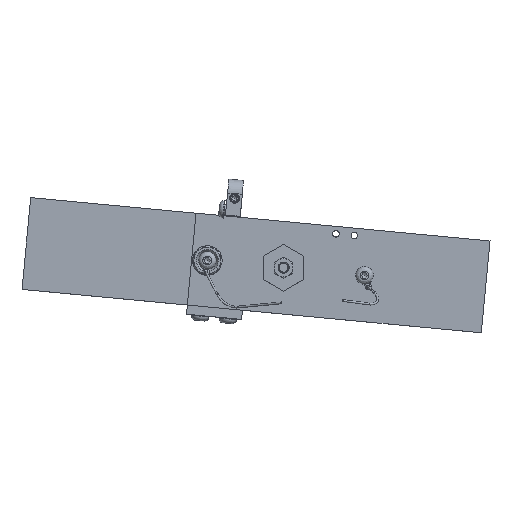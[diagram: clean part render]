
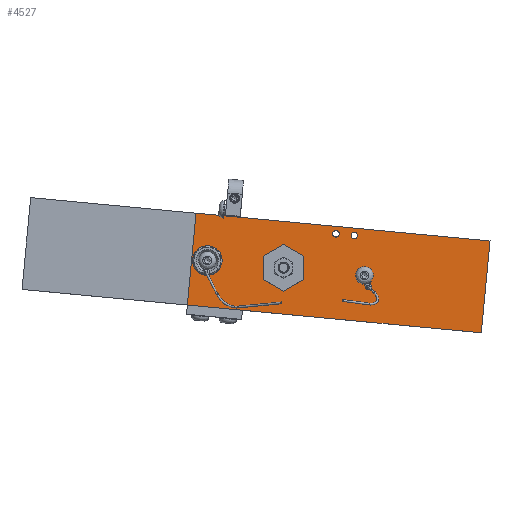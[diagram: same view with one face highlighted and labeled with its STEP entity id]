
A CAD part, top view. The second image highlights one B-rep face of the part: STEP entity #4527.
In plain terms, the highlighted planar face has unit normal (0, 0, 1) as drawn and (0, 0, -1) by its records, which use the part's own axes.
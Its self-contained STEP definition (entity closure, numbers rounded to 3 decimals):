
#313=LINE('',#7025,#554);
#314=LINE('',#7027,#555);
#315=LINE('',#7029,#556);
#316=LINE('',#7030,#557);
#554=VECTOR('',#5561,50.);
#555=VECTOR('',#5562,160.);
#556=VECTOR('',#5563,50.);
#557=VECTOR('',#5564,160.);
#795=PLANE('',#4914);
#1000=FACE_BOUND('',#1504,.T.);
#1001=FACE_BOUND('',#1505,.T.);
#1002=FACE_BOUND('',#1506,.T.);
#1003=FACE_BOUND('',#1507,.T.);
#1004=FACE_BOUND('',#1508,.T.);
#1005=FACE_BOUND('',#1509,.T.);
#1504=EDGE_LOOP('',(#3249));
#1505=EDGE_LOOP('',(#3250));
#1506=EDGE_LOOP('',(#3251));
#1507=EDGE_LOOP('',(#3252));
#1508=EDGE_LOOP('',(#3253));
#1509=EDGE_LOOP('',(#3254,#3255,#3256,#3257));
#1979=CIRCLE('',#4889,6.);
#1980=CIRCLE('',#4891,1.621);
#1982=CIRCLE('',#4894,1.75);
#1984=CIRCLE('',#4897,1.75);
#1992=CIRCLE('',#4912,10.);
#2216=VERTEX_POINT('',#6982);
#2217=VERTEX_POINT('',#6985);
#2219=VERTEX_POINT('',#6990);
#2221=VERTEX_POINT('',#6995);
#2229=VERTEX_POINT('',#7018);
#2231=VERTEX_POINT('',#7023);
#2232=VERTEX_POINT('',#7024);
#2233=VERTEX_POINT('',#7026);
#2234=VERTEX_POINT('',#7028);
#2643=EDGE_CURVE('',#2216,#2216,#1979,.T.);
#2644=EDGE_CURVE('',#2217,#2217,#1980,.T.);
#2646=EDGE_CURVE('',#2219,#2219,#1982,.T.);
#2648=EDGE_CURVE('',#2221,#2221,#1984,.T.);
#2656=EDGE_CURVE('',#2229,#2229,#1992,.T.);
#2658=EDGE_CURVE('',#2231,#2232,#313,.T.);
#2659=EDGE_CURVE('',#2233,#2231,#314,.T.);
#2660=EDGE_CURVE('',#2234,#2233,#315,.T.);
#2661=EDGE_CURVE('',#2232,#2234,#316,.T.);
#3249=ORIENTED_EDGE('',*,*,#2643,.T.);
#3250=ORIENTED_EDGE('',*,*,#2644,.T.);
#3251=ORIENTED_EDGE('',*,*,#2646,.T.);
#3252=ORIENTED_EDGE('',*,*,#2648,.T.);
#3253=ORIENTED_EDGE('',*,*,#2656,.T.);
#3254=ORIENTED_EDGE('',*,*,#2658,.F.);
#3255=ORIENTED_EDGE('',*,*,#2659,.F.);
#3256=ORIENTED_EDGE('',*,*,#2660,.F.);
#3257=ORIENTED_EDGE('',*,*,#2661,.F.);
#4527=ADVANCED_FACE('',(#1000,#1001,#1002,#1003,#1004,#1005),#795,.F.);
#4889=AXIS2_PLACEMENT_3D('',#6983,#5509,#5510);
#4891=AXIS2_PLACEMENT_3D('',#6986,#5513,#5514);
#4894=AXIS2_PLACEMENT_3D('',#6991,#5519,#5520);
#4897=AXIS2_PLACEMENT_3D('',#6996,#5525,#5526);
#4912=AXIS2_PLACEMENT_3D('',#7019,#5555,#5556);
#4914=AXIS2_PLACEMENT_3D('',#7022,#5559,#5560);
#5509=DIRECTION('center_axis',(0.,0.,
1.));
#5510=DIRECTION('ref_axis',(-1.,0.,0.));
#5513=DIRECTION('center_axis',(0.,0.,
1.));
#5514=DIRECTION('ref_axis',(1.,0.,0.));
#5519=DIRECTION('center_axis',(0.,0.,
1.));
#5520=DIRECTION('ref_axis',(1.,0.,0.));
#5525=DIRECTION('center_axis',(0.,0.,
1.));
#5526=DIRECTION('ref_axis',(1.,0.,0.));
#5555=DIRECTION('center_axis',(0.,0.,
1.));
#5556=DIRECTION('ref_axis',(1.,0.,0.));
#5559=DIRECTION('center_axis',(0.,0.,
1.));
#5560=DIRECTION('ref_axis',(1.,0.,0.));
#5561=DIRECTION('',(0.,1.,0.));
#5562=DIRECTION('',(1.,0.,0.));
#5563=DIRECTION('',(0.,-1.,0.));
#5564=DIRECTION('',(-1.,0.,0.));
#6982=CARTESIAN_POINT('',(-37.5,0.,-5.));
#6983=CARTESIAN_POINT('Origin',(-31.5,0.,
-5.));
#6985=CARTESIAN_POINT('',(52.379,0.,-5.));
#6986=CARTESIAN_POINT('Origin',(54.,0.,
-5.));
#6990=CARTESIAN_POINT('',(44.75,-21.,-5.));
#6991=CARTESIAN_POINT('Origin',(46.5,-21.,-5.));
#6995=CARTESIAN_POINT('',(34.75,-21.,-5.));
#6996=CARTESIAN_POINT('Origin',(36.5,-21.,-5.));
#7018=CARTESIAN_POINT('',(0.,0.,
-5.));
#7019=CARTESIAN_POINT('Origin',(10.,0.,
-5.));
#7022=CARTESIAN_POINT('Origin',(40.,0.,
-5.));
#7023=CARTESIAN_POINT('',(120.,-25.,-5.));
#7024=CARTESIAN_POINT('',(120.,25.,-5.));
#7025=CARTESIAN_POINT('',(120.,-25.,-5.));
#7026=CARTESIAN_POINT('',(-40.,-25.,-5.));
#7027=CARTESIAN_POINT('',(-40.,-25.,-5.));
#7028=CARTESIAN_POINT('',(-40.,25.,-5.));
#7029=CARTESIAN_POINT('',(-40.,25.,-5.));
#7030=CARTESIAN_POINT('',(120.,25.,-5.));
